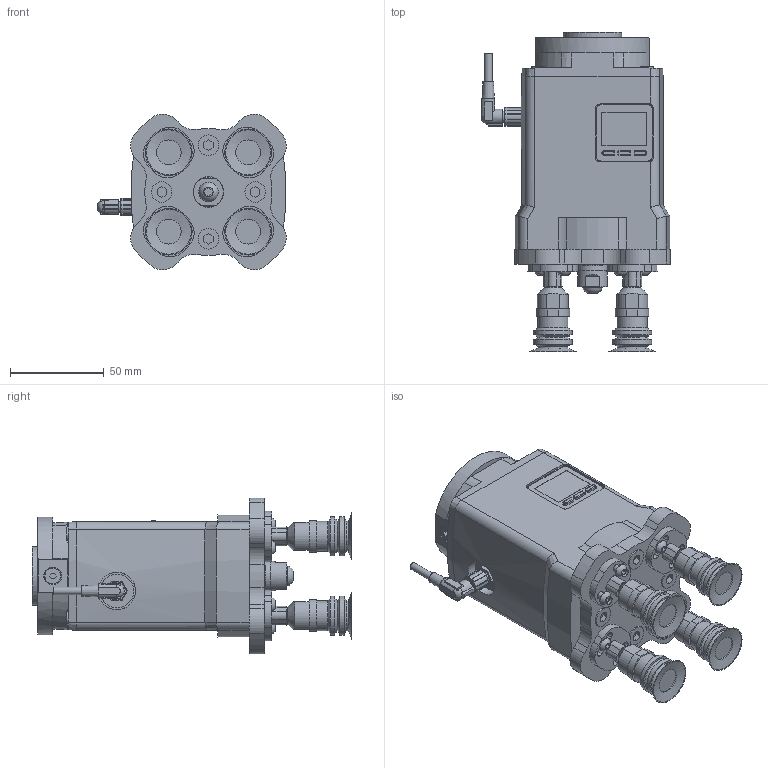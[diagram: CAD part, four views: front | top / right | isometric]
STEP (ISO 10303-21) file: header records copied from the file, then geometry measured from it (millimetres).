
FILE_DESCRIPTION(/* description */ ('STEP AP242','CAx-IF Rec.Pracs.---Representation and Presentation of Product Manufacturing Information (PMI)---4.0---2014-10-13','CAx-IF Rec.Pracs.---3D Tessellated Geometry---0.4---2014-09-14','2;1'),/* implementation_level */ '2;1');
FILE_NAME(/* name */ 'ZXPE5A051P-25JT2SFF-CE(0000_30303030_0)',/* time_stamp */ '2026-03-09T12:38:56+01:00',/* author */ ('License CC BY-ND 4.0'),/* organization */ ('CADENAS'),/* preprocessor_version */ 'ST-DEVELOPER v20',/* originating_system */ 'PARTsolutions',/* authorisation */ ' ');
FILE_SCHEMA (('AP242_MANAGED_MODEL_BASED_3D_ENGINEERING_MIM_LF { 1 0 10303 442 1 1 4 }'));
Length unit declared in the file: millimetre
Products named in the file (14): ZXPE5A051P-25JT2SFF-CE(0000_30303030_0); ZXPE5N051P-CE(0); RMH-A00-11-A; ZXPE5-PFL1-A_PLATEA(0); ZXPE5-PFL1-A_PLATEB(0); ZP3P-T25JT2SF-WF-AG01_D(0); AG1-AS6_ADAPTER(0); ZP3PA-T1JT-AG0125_25(0); ZP3P-25JT2SF-WF_PAD; ZP3PWF-25JT2; ZXPE5-PFL1-A_BOLT1; ZXPE5-PFL1-A_ADAPTER(0); M6x8+M-6G; M6x10_ZXPE5
Assembly tree (41 placements, depth 2):
  ZXPE5A051P-25JT2SFF-CE(0000_30303030_0)
    ZXPE5N051P-CE(0)
    RMH-A00-11-A
    ZXPE5-PFL1-A_PLATEA(0)
    ZXPE5-PFL1-A_PLATEB(0)  x4
    ZP3P-T25JT2SF-WF-AG01_D(0)  x4
    AG1-AS6_ADAPTER(0)  x4
    ZP3PA-T1JT-AG0125_25(0)  x4
    ZP3P-25JT2SF-WF_PAD  x4
    ZP3PWF-25JT2  x4
    ZXPE5-PFL1-A_BOLT1  x8
    ZXPE5-PFL1-A_ADAPTER(0)
    M6x8+M-6G
    M6x10_ZXPE5  x4
Bounding box: 100.8 x 170.8 x 83.19 mm (x, y, z)
Volume: 553013 mm3; surface area: 97979.4 mm2
Topology: 37 solids, 37 shells, 1055 faces, 2290 edges, 1488 vertices
Faces by surface type: plane 567, cylinder 335, cone 115, torus 16, bspline 12, sphere 10
Full cylindrical faces by diameter (mm): 0.6 x8, 2.459 x4, 2.5 x4, 3.242 x8, 4 x9, 4.9 x4, 4.917 x11, 5 x6, 5.95 x1, 6 x11, 6.2 x1, 6.6 x8, 6.9 x1, 7 x4, 7.6 x8, 8 x6, 8.5 x6, 8.566 x5, 8.8 x8, 9 x2, 9.728 x5, 10.5 x1, 11 x8, 11.2 x8, 13.2 x8, 14 x1, 16 x9, 16.3 x1, 18 x1, 20 x1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
Entity records: 18214 total; most frequent: CARTESIAN_POINT 3444, DIRECTION 3099, ORIENTED_EDGE 2630, EDGE_CURVE 1315, AXIS2_PLACEMENT_3D 1207, VERTEX_POINT 942, EDGE_LOOP 917, FACE_BOUND 917
